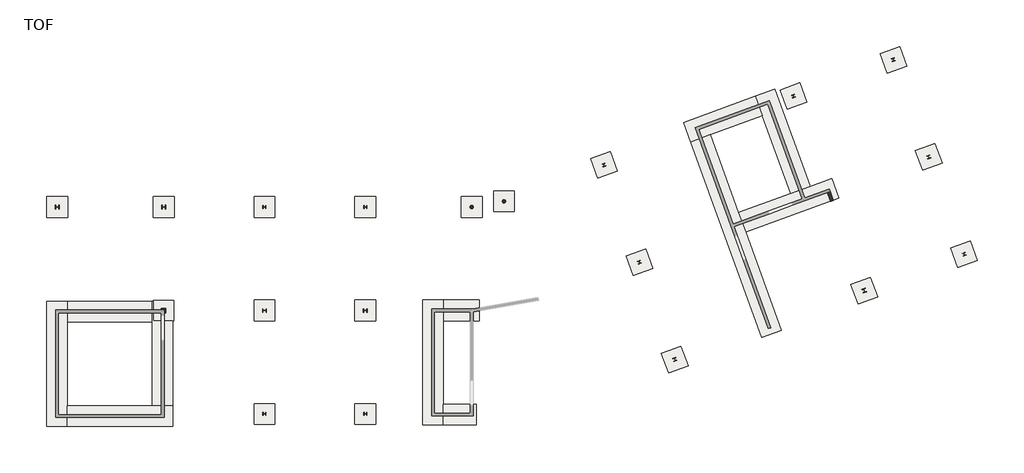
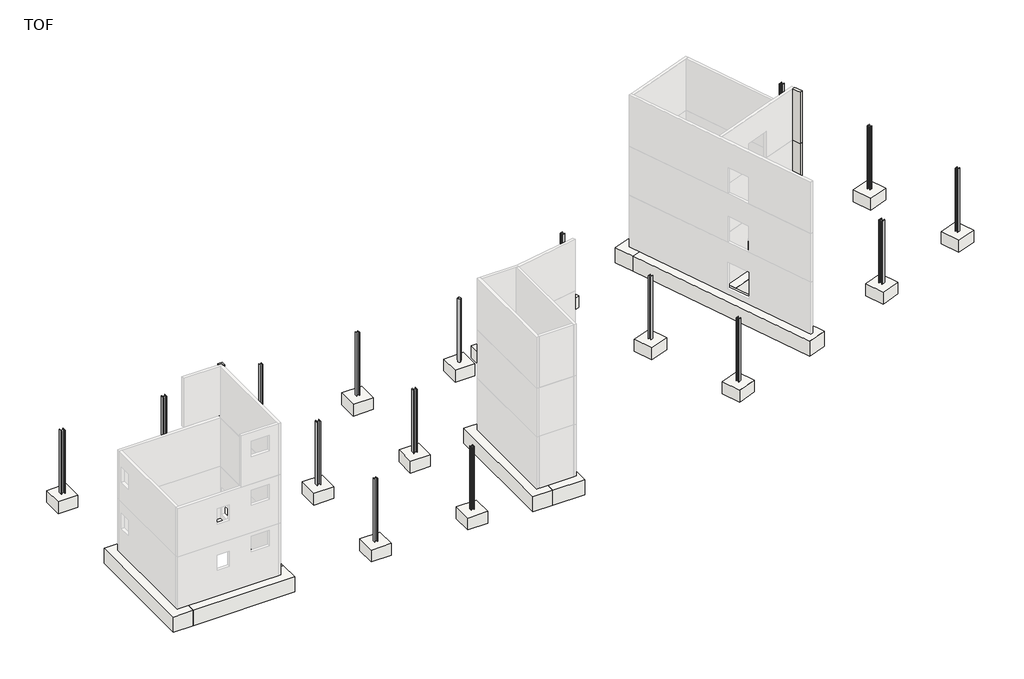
# One storey, part 2 of 2: 19 columns, 19 slabs, 11 footings, 1 wall.
"""IFC4 building model written with IfcOpenShell, lengths in millimetres."""

from ifc_helpers import new_model, si_unit, frame, origin, place, context, project, spatial, polyline, outline, extrude, faceted_brep, transform, mapped, element, save
from components import circular_hollow_sections_column_chs244_5x6_3_66409fe9, uc_universal_columns_column_uc203x203x71_fe7b5fb6, uc_universal_columns_column_uc254x254x132_75153143, footing_rectangular_1500_x_1500_x_950_28d08e25

model = new_model("IFC4")

# Units and contexts
model_context = context("Model", 3, world=origin())
ifc_project = project(units=[si_unit("LENGTHUNIT", "METRE", prefix="MILLI")], contexts=[model_context])

# Site, building, storey
site = spatial("IfcSite", under=ifc_project)
building = spatial("IfcBuilding", under=site)
storey = spatial("IfcBuildingStorey", under=building, Name="TOF", Elevation=-450.0)

# Columns
placement = place(None, origin())
circular_hollow_sections_column_chs244_5x6_3_shape = circular_hollow_sections_column_chs244_5x6_3_66409fe9(model_context)
element("IfcColumn", 1, ObjectType="Circular Hollow Sections-Column : CHS244.5x6.3", at=placement, inside=storey, context=model_context, shape_type="MappedRepresentation", body=[
    mapped(circular_hollow_sections_column_chs244_5x6_3_shape, transform((30362.2000022, 15363.2000005, 0.0), x_axis=(0.0, 1.0, 0.0), y_axis=(-1.0, 0.0, 0.0), z_axis=(0.0, 0.0, 1.0))),
])
element("IfcColumn", 2, ObjectType="Circular Hollow Sections-Column : CHS244.5x6.3", at=placement, inside=storey, context=model_context, shape_type="MappedRepresentation", body=[
    mapped(circular_hollow_sections_column_chs244_5x6_3_shape, transform((32699.714443, 15775.3668642, 0.0), x_axis=(1.0, 0.0, 0.0), y_axis=(0.0, 1.0, 0.0), z_axis=(0.0, 0.0, 1.0))),
])
element("IfcColumn", 3, ObjectType="Concrete-Rectangular-Column : 325 x 325", at=placement, inside=storey, context=model_context, shape_type="SweptSolid", body=[
    extrude(outline(polyline([(7887.2000024, 8013.2000005), (8212.2000024, 8013.2000005), (8212.2000024, 7688.2000005), (8087.2000024, 7688.2000005), (8087.2000024, 7888.2000005), (7887.2000024, 7888.2000005), (7887.2000024, 8013.2000005)])), frame((0.0, 0.0, 7795.0), z_axis=(0.0, 0.0, 1.0), x_axis=(1.0, 0.0, 0.0)), (0.0, 0.0, 1.0), 3905.0),
    extrude(outline(polyline([(8212.2000024, 8013.2000005), (8212.2000024, 7688.2000005), (8087.2000024, 7688.2000005), (8087.2000024, 7888.2000005), (7887.2000024, 7888.2000005), (7887.2000024, 8013.2000005), (8212.2000024, 8013.2000005)])), frame((0.0, 0.0, -450.0), z_axis=(0.0, 0.0, 1.0), x_axis=(1.0, 0.0, 0.0)), (0.0, 0.0, 1.0), 8045.0),
])
uc_universal_columns_column_uc203x203x71_shape = uc_universal_columns_column_uc203x203x71_fe7b5fb6(model_context)
element("IfcColumn", 4, ObjectType="UC-Universal Columns-Column : UC203x203x71", at=placement, inside=storey, context=model_context, shape_type="MappedRepresentation", body=[
    mapped(uc_universal_columns_column_uc203x203x71_shape, transform((22662.2000023, 15363.2000005, 0.0), x_axis=(0.0, 1.0, 0.0), y_axis=(-1.0, 0.0, 0.0), z_axis=(0.0, 0.0, 1.0))),
])
element("IfcColumn", 5, ObjectType="UC-Universal Columns-Column : UC203x203x71", at=placement, inside=storey, context=model_context, shape_type="MappedRepresentation", body=[
    mapped(uc_universal_columns_column_uc203x203x71_shape, transform((15362.2000023, 15363.2000005, 0.0), x_axis=(0.0, 1.0, 0.0), y_axis=(-1.0, 0.0, 0.0), z_axis=(0.0, 0.0, 1.0))),
])
element("IfcColumn", 6, ObjectType="UC-Universal Columns-Column : UC203x203x71", at=placement, inside=storey, context=model_context, shape_type="MappedRepresentation", body=[
    mapped(uc_universal_columns_column_uc203x203x71_shape, transform((15362.2000023, 363.2000005, 0.0), x_axis=(0.0, 1.0, 0.0), y_axis=(-1.0, 0.0, 0.0), z_axis=(0.0, 0.0, 1.0))),
])
element("IfcColumn", 7, ObjectType="UC-Universal Columns-Column : UC203x203x71", at=placement, inside=storey, context=model_context, shape_type="MappedRepresentation", body=[
    mapped(uc_universal_columns_column_uc203x203x71_shape, transform((22662.2000022, 363.2000005, 0.0), x_axis=(0.0, 1.0, 0.0), y_axis=(-1.0, 0.0, 0.0), z_axis=(0.0, 0.0, 1.0))),
])
element("IfcColumn", 8, ObjectType="UC-Universal Columns-Column : UC203x203x71", at=placement, inside=storey, context=model_context, shape_type="MappedRepresentation", body=[
    mapped(uc_universal_columns_column_uc203x203x71_shape, transform((42500.4986978, 11361.2273115, 0.0), x_axis=(0.9396926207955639, 0.3420201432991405, 0.0), y_axis=(-0.3420201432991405, 0.9396926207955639, 0.0), z_axis=(0.0, 0.0, 1.0))),
])
element("IfcColumn", 9, ObjectType="UC-Universal Columns-Column : UC203x203x71", at=placement, inside=storey, context=model_context, shape_type="MappedRepresentation", body=[
    mapped(uc_universal_columns_column_uc203x203x71_shape, transform((39935.3476231, 18408.9219674, 0.0), x_axis=(0.9396926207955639, 0.3420201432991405, 0.0), y_axis=(-0.3420201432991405, 0.9396926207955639, 0.0), z_axis=(0.0, 0.0, 1.0))),
])
element("IfcColumn", 10, ObjectType="UC-Universal Columns-Column : UC203x203x71", at=placement, inside=storey, context=model_context, shape_type="MappedRepresentation", body=[
    mapped(uc_universal_columns_column_uc203x203x71_shape, transform((53654.8598867, 23402.4160596, 0.0), x_axis=(0.9396926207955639, 0.3420201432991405, 0.0), y_axis=(-0.3420201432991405, 0.9396926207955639, 0.0), z_axis=(0.0, 0.0, 1.0))),
])
element("IfcColumn", 11, ObjectType="UC-Universal Columns-Column : UC203x203x71", at=placement, inside=storey, context=model_context, shape_type="MappedRepresentation", body=[
    mapped(uc_universal_columns_column_uc203x203x71_shape, transform((60890.4930669, 26035.971163, 0.0), x_axis=(0.9396926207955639, 0.3420201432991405, 0.0), y_axis=(-0.3420201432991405, 0.9396926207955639, 0.0), z_axis=(0.0, 0.0, 1.0))),
])
element("IfcColumn", 12, ObjectType="UC-Universal Columns-Column : UC203x203x71", at=placement, inside=storey, context=model_context, shape_type="MappedRepresentation", body=[
    mapped(uc_universal_columns_column_uc203x203x71_shape, transform((63455.6441416, 18988.2765071, 0.0), x_axis=(0.9396926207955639, 0.3420201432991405, 0.0), y_axis=(-0.3420201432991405, 0.9396926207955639, 0.0), z_axis=(0.0, 0.0, 1.0))),
])
element("IfcColumn", 13, ObjectType="UC-Universal Columns-Column : UC203x203x71", at=placement, inside=storey, context=model_context, shape_type="MappedRepresentation", body=[
    mapped(uc_universal_columns_column_uc203x203x71_shape, transform((66020.7952164, 11940.5818511, 0.0), x_axis=(0.9396926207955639, 0.3420201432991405, 0.0), y_axis=(-0.3420201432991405, 0.9396926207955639, 0.0), z_axis=(0.0, 0.0, 1.0))),
])
element("IfcColumn", 14, ObjectType="UC-Universal Columns-Column : UC203x203x71", at=placement, inside=storey, context=model_context, shape_type="MappedRepresentation", body=[
    mapped(uc_universal_columns_column_uc203x203x71_shape, transform((45065.6497726, 4313.5326555, 0.0), x_axis=(0.939692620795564, 0.3420201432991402, 0.0), y_axis=(-0.3420201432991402, 0.939692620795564, 0.0), z_axis=(0.0, 0.0, 1.0))),
])
uc_universal_columns_column_uc254x254x132_shape = uc_universal_columns_column_uc254x254x132_75153143(model_context)
element("IfcColumn", 15, ObjectType="UC-Universal Columns-Column : UC254x254x132", at=placement, inside=storey, context=model_context, shape_type="MappedRepresentation", body=[
    mapped(uc_universal_columns_column_uc254x254x132_shape, transform((15362.2000023, 7863.2000004, 0.0), x_axis=(0.0, 1.0, 0.0), y_axis=(-1.0, 0.0, 0.0), z_axis=(0.0, 0.0, 1.0))),
])
element("IfcColumn", 16, ObjectType="UC-Universal Columns-Column : UC254x254x132", at=placement, inside=storey, context=model_context, shape_type="MappedRepresentation", body=[
    mapped(uc_universal_columns_column_uc254x254x132_shape, transform((22662.2000022, 7863.2000004, 0.0), x_axis=(0.0, 1.0, 0.0), y_axis=(-1.0, 0.0, 0.0), z_axis=(0.0, 0.0, 1.0))),
])
element("IfcColumn", 17, ObjectType="UC-Universal Columns-Column : UC254x254x132", at=placement, inside=storey, context=model_context, shape_type="MappedRepresentation", body=[
    mapped(uc_universal_columns_column_uc254x254x132_shape, transform((8062.2000022, 15363.2000005, 0.0), x_axis=(0.0, 1.0, 0.0), y_axis=(-1.0, 0.0, 0.0), z_axis=(0.0, 0.0, 1.0))),
])
element("IfcColumn", 18, ObjectType="UC-Universal Columns-Column : UC254x254x132", at=placement, inside=storey, context=model_context, shape_type="MappedRepresentation", body=[
    mapped(uc_universal_columns_column_uc254x254x132_shape, transform((362.2000023, 15363.2000005, 0.0), x_axis=(0.0, 1.0, 0.0), y_axis=(-1.0, 0.0, 0.0), z_axis=(0.0, 0.0, 1.0))),
])
element("IfcColumn", 19, ObjectType="UC-Universal Columns-Column : UC254x254x132", at=placement, inside=storey, context=model_context, shape_type="MappedRepresentation", body=[
    mapped(uc_universal_columns_column_uc254x254x132_shape, transform((58785.1620362, 9307.0267477, 0.0), x_axis=(0.9396926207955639, 0.3420201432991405, 0.0), y_axis=(-0.3420201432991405, 0.9396926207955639, 0.0), z_axis=(0.0, 0.0, 1.0))),
])

# Footings
element("IfcFooting", 20, ObjectType="Retaining Footing - 300 x 600 x 300", at=placement, inside=storey, context=model_context, shape_type="Brep", body=[
    faceted_brep([(1082.9999999, -536.9999993, -450.0), (1083.0000002, 963.0000007, -450.0), (1083.0000011, 7038.2000003, -450.0), (1083.0000014, 8538.2000003, -450.0), (-416.9999986, 8538.2000003, -450.0), (-417.0000001, -536.9999993, -450.0), (-417.0000001, -536.9999993, -1650.0), (-416.9999986, 8538.2000003, -1650.0), (1082.9999999, -536.9999993, -1650.0), (1083.0000014, 8538.2000003, -1650.0), (1083.0000011, 7038.2000003, -1650.0), (1083.0000002, 963.0000007, -1650.0)], [[[0, 1, 2, 3, 4, 5]], [[6, 5, 4, 7]], [[8, 6, 7, 9, 10, 11]], [[0, 8, 11, 10, 9, 3, 2, 1]], [[0, 5, 6, 8]], [[4, 3, 9, 7]]]),
])
element("IfcFooting", 21, ObjectType="Retaining Footing - 300 x 600 x 300", at=placement, inside=storey, context=model_context, shape_type="Brep", body=[
    faceted_brep([(8737.2000024, -536.9999993, -450.0), (8737.2000024, 963.0000007, -450.0), (7237.2000024, 963.0000007, -450.0), (1083.0000002, 963.0000007, -450.0), (1082.9999999, -536.9999993, -450.0), (8737.2000024, -536.9999993, -1650.0), (1082.9999999, -536.9999993, -1650.0), (8737.2000024, 963.0000007, -1650.0), (1083.0000002, 963.0000007, -1650.0), (7237.2000024, 963.0000007, -1650.0)], [[[0, 1, 2, 3, 4]], [[5, 0, 4, 6]], [[7, 5, 6, 8, 9]], [[1, 7, 9, 8, 3, 2]], [[4, 3, 8, 6]], [[1, 0, 5, 7]]]),
])
element("IfcFooting", 22, ObjectType="Retaining Footing - 300 x 600 x 300", at=placement, inside=storey, context=model_context, shape_type="Brep", body=[
    faceted_brep([(8737.2000024, 7100.7000005, -450.0), (7299.7000024, 7100.7000005, -450.0), (7299.7000024, 8538.2000005, -450.0), (7237.2000024, 8538.2000005, -450.0), (7237.2000024, 7038.2000005, -450.0), (7237.2000024, 963.0000007, -450.0), (8737.2000024, 963.0000007, -450.0), (8737.2000024, 7100.7000005, -1400.0), (8737.2000024, 963.0000007, -1650.0), (8737.2000024, 8538.2000005, -1650.0), (8737.2000024, 8538.2000005, -1400.0), (7237.2000024, 8538.2000005, -1650.0), (7237.2000024, 963.0000007, -1650.0), (7237.2000024, 7038.2000005, -1650.0), (7299.7000024, 7100.7000005, -1400.0), (7299.7000024, 8538.2000005, -1400.0)], [[[0, 1, 2, 3, 4, 5, 6]], [[7, 0, 6, 8, 9, 10]], [[11, 9, 8, 12, 13]], [[3, 11, 13, 12, 5, 4]], [[14, 1, 0, 7]], [[6, 5, 12, 8]], [[9, 11, 3, 2, 15, 10]], [[15, 14, 7, 10]], [[1, 14, 15, 2]]]),
])
element("IfcFooting", 23, ObjectType="Retaining Footing - 300 x 600 x 300", at=placement, inside=storey, context=model_context, shape_type="SweptSolid", body=[
    extrude(outline(polyline([(1083.0000011, 7038.2000003), (1083.0000014, 8538.2000003), (7237.2000024, 8538.2000005), (7237.2000024, 7038.2000005), (1083.0000011, 7038.2000003)])), frame((0.0, 0.0, -1650.0), z_axis=(0.0, 0.0, 1.0), x_axis=(1.0, 0.0, 0.0)), (0.0, 0.0, 1.0), 1200.0),
])
element("IfcFooting", 24, ObjectType="Retaining Footing - 300 x 600 x 300", at=placement, inside=storey, context=model_context, shape_type="Brep", body=[
    faceted_brep([(28312.2000028, -429.9999994, -450.0), (28312.2000028, 1070.0000006, -450.0), (28312.2000028, 7113.2000004, -450.0), (28312.2000028, 8613.2000004, -450.0), (26812.2000028, 8613.2000004, -450.0), (26812.2000028, -429.9999994, -450.0), (26812.2000028, -429.9999994, -1650.0), (26812.2000028, 8613.2000004, -1650.0), (28312.2000028, -429.9999994, -1650.0), (28312.2000028, 8613.2000004, -1650.0), (28312.2000028, 7113.2000004, -1650.0), (28312.2000028, 1070.0000006, -1650.0)], [[[0, 1, 2, 3, 4, 5]], [[6, 5, 4, 7]], [[8, 6, 7, 9, 10, 11]], [[0, 8, 11, 10, 9, 3, 2, 1]], [[4, 3, 9, 7]], [[0, 5, 6, 8]]]),
])
element("IfcFooting", 25, ObjectType="Retaining Footing - 300 x 600 x 300", at=placement, inside=storey, context=model_context, shape_type="SweptSolid", body=[
    extrude(outline(polyline([(30912.2000027, 8613.2000004), (30912.2000027, 7113.2000004), (28312.2000028, 7113.2000004), (28312.2000028, 8613.2000004), (30912.2000027, 8613.2000004)])), frame((0.0, 0.0, -1650.0), z_axis=(0.0, 0.0, 1.0), x_axis=(1.0, 0.0, 0.0)), (0.0, 0.0, 1.0), 1200.0),
])
element("IfcFooting", 26, ObjectType="Retaining Footing - 300 x 600 x 300", at=placement, inside=storey, context=model_context, shape_type="SweptSolid", body=[
    extrude(outline(polyline([(30712.2000024, 1070.0000006), (30712.2000024, -429.9999994), (28312.2000028, -429.9999994), (28312.2000028, 1070.0000006), (30712.2000024, 1070.0000006)])), frame((0.0, 0.0, -1650.0), z_axis=(0.0, 0.0, 1.0), x_axis=(1.0, 0.0, 0.0)), (0.0, 0.0, 1.0), 1200.0),
])
element("IfcFooting", 27, ObjectType="Retaining Footing - 300 x 600 x 300", at=placement, inside=storey, context=model_context, shape_type="Brep", body=[
    faceted_brep([(50904.0078621, 23385.7650789, -450.0), (51417.0380771, 21976.2261477, -450.0), (53468.3722906, 16340.2317159, -450.0), (54877.9112218, 16853.2619309, -450.0), (52313.5467933, 23898.7952939, -450.0), (52313.5467933, 23898.7952939, -1650.0), (54877.9112218, 16853.2619309, -1650.0), (50904.0078621, 23385.7650789, -1650.0), (53468.3722906, 16340.2317159, -1650.0), (51417.0380771, 21976.2261477, -1650.0)], [[[0, 1, 2, 3, 4]], [[5, 4, 3, 6]], [[7, 5, 6, 8, 9]], [[0, 7, 9, 8, 2, 1]], [[0, 4, 5, 7]], [[3, 2, 8, 6]]]),
])
element("IfcFooting", 28, ObjectType="Retaining Footing - 300 x 600 x 300", at=placement, inside=storey, context=model_context, shape_type="Brep", body=[
    faceted_brep([(45703.4203062, 21492.9060081, -450.0), (46216.4505212, 20083.3670769, -450.0), (47625.9894524, 20596.3972918, -450.0), (51417.0380771, 21976.2261477, -450.0), (50904.0078621, 23385.7650789, -450.0), (45703.4203062, 21492.9060081, -1650.0), (50904.0078621, 23385.7650789, -1650.0), (46216.4505212, 20083.3670769, -1650.0), (51417.0380771, 21976.2261477, -1650.0), (47625.9894524, 20596.3972918, -1650.0)], [[[0, 1, 2, 3, 4]], [[5, 0, 4, 6]], [[7, 5, 6, 8, 9]], [[1, 7, 9, 8, 3, 2]], [[4, 3, 8, 6]], [[1, 0, 5, 7]]]),
])
element("IfcFooting", 29, ObjectType="Retaining Footing - 300 x 600 x 300", at=placement, inside=storey, context=model_context, shape_type="Brep", body=[
    faceted_brep([(51377.6712916, 5903.0295521, -450.0), (51377.6712916, 5903.0295521, -1650.0), (52787.2102228, 6416.059767, -1650.0), (52787.2102228, 6416.059767, -450.0), (50190.3538808, 13550.8639288, -450.0), (49677.3236659, 14960.40286, -450.0), (47625.9894524, 20596.3972918, -450.0), (46216.4505212, 20083.3670769, -450.0), (46216.4505212, 20083.3670769, -1650.0), (47625.9894524, 20596.3972918, -1650.0), (49677.3236659, 14960.40286, -1650.0), (50190.3538808, 13550.8639288, -1650.0)], [[[0, 1, 2, 3]], [[0, 3, 4, 5, 6, 7]], [[1, 0, 7, 8]], [[2, 1, 8, 9, 10, 11]], [[3, 2, 11, 10, 9, 6, 5, 4]], [[7, 6, 9, 8]]]),
])
element("IfcFooting", 30, ObjectType="Retaining Footing - 300 x 600 x 300", at=placement, inside=storey, context=model_context, shape_type="Brep", body=[
    faceted_brep([(56956.1407505, 16013.4089605, -450.0), (56956.1407505, 16013.4089605, -1650.0), (56443.1105356, 17422.9478917, -1650.0), (56443.1105356, 17422.9478917, -450.0), (50190.3538808, 13550.8639288, -450.0), (54877.9112218, 16853.2619309, -450.0), (53468.3722906, 16340.2317159, -450.0), (49677.3236659, 14960.40286, -450.0), (50190.3538808, 13550.8639288, -1650.0), (49677.3236659, 14960.40286, -1650.0), (53468.3722906, 16340.2317159, -1650.0), (54877.9112218, 16853.2619309, -1650.0)], [[[0, 1, 2, 3]], [[4, 0, 3, 5, 6, 7]], [[1, 0, 4, 8]], [[2, 1, 8, 9, 10, 11]], [[3, 2, 11, 10, 9, 7, 6, 5]], [[4, 7, 9, 8]]]),
])

# Slabs
element("IfcSlab", 31, ObjectType="Footing-Rectangular : 1500 x 1500 x 950", at=placement, inside=storey, context=model_context, shape_type="Brep", body=[
    faceted_brep([(8799.7000024, 8600.7000005, -450.0), (7299.7000024, 8600.7000005, -450.0), (7299.7000024, 8538.2000005, -450.0), (7299.7000024, 7100.7000005, -450.0), (8737.2000024, 7100.7000005, -450.0), (8799.7000024, 7100.7000005, -450.0), (8799.7000024, 8600.7000005, -1400.0), (8799.7000024, 7100.7000005, -1400.0), (8737.2000024, 7100.7000005, -1400.0), (7299.7000024, 7100.7000005, -1400.0), (7299.7000024, 8538.2000005, -1400.0), (7299.7000024, 8600.7000005, -1400.0)], [[[0, 1, 2, 3, 4, 5]], [[6, 7, 8, 9, 10, 11]], [[1, 0, 6, 11]], [[3, 2, 1, 11, 10, 9]], [[5, 4, 3, 9, 8, 7]], [[0, 5, 7, 6]]]),
])
footing_rectangular_1500_x_1500_x_950_shape = footing_rectangular_1500_x_1500_x_950_28d08e25(model_context)
element("IfcSlab", 32, ObjectType="Footing-Rectangular : 1500 x 1500 x 950", at=placement, inside=storey, context=model_context, shape_type="MappedRepresentation", body=[
    mapped(footing_rectangular_1500_x_1500_x_950_shape, transform((15362.2000023, 7863.2000004, -450.0), x_axis=(0.0, 1.0, 0.0), y_axis=(-1.0, 0.0, 0.0), z_axis=(0.0, 0.0, 1.0))),
])
element("IfcSlab", 33, ObjectType="Footing-Rectangular : 1500 x 1500 x 950", at=placement, inside=storey, context=model_context, shape_type="MappedRepresentation", body=[
    mapped(footing_rectangular_1500_x_1500_x_950_shape, transform((22662.2000022, 7863.2000004, -450.0), x_axis=(0.0, 1.0, 0.0), y_axis=(-1.0, 0.0, 0.0), z_axis=(0.0, 0.0, 1.0))),
])
element("IfcSlab", 34, ObjectType="Footing-Rectangular : 1500 x 1500 x 950", at=placement, inside=storey, context=model_context, shape_type="MappedRepresentation", body=[
    mapped(footing_rectangular_1500_x_1500_x_950_shape, transform((22662.2000023, 15363.2000005, -450.0), x_axis=(0.0, 1.0, 0.0), y_axis=(-1.0, 0.0, 0.0), z_axis=(0.0, 0.0, 1.0))),
])
element("IfcSlab", 35, ObjectType="Footing-Rectangular : 1500 x 1500 x 950", at=placement, inside=storey, context=model_context, shape_type="MappedRepresentation", body=[
    mapped(footing_rectangular_1500_x_1500_x_950_shape, transform((15362.2000023, 15363.2000005, -450.0), x_axis=(0.0, 1.0, 0.0), y_axis=(-1.0, 0.0, 0.0), z_axis=(0.0, 0.0, 1.0))),
])
element("IfcSlab", 36, ObjectType="Footing-Rectangular : 1500 x 1500 x 950", at=placement, inside=storey, context=model_context, shape_type="MappedRepresentation", body=[
    mapped(footing_rectangular_1500_x_1500_x_950_shape, transform((8062.2000022, 15363.2000005, -450.0), x_axis=(0.0, 1.0, 0.0), y_axis=(-1.0, 0.0, 0.0), z_axis=(0.0, 0.0, 1.0))),
])
element("IfcSlab", 37, ObjectType="Footing-Rectangular : 1500 x 1500 x 950", at=placement, inside=storey, context=model_context, shape_type="MappedRepresentation", body=[
    mapped(footing_rectangular_1500_x_1500_x_950_shape, transform((362.2000023, 15363.2000005, -450.0), x_axis=(0.0, 1.0, 0.0), y_axis=(-1.0, 0.0, 0.0), z_axis=(0.0, 0.0, 1.0))),
])
element("IfcSlab", 38, ObjectType="Footing-Rectangular : 1500 x 1500 x 950", at=placement, inside=storey, context=model_context, shape_type="MappedRepresentation", body=[
    mapped(footing_rectangular_1500_x_1500_x_950_shape, transform((15362.2000023, 363.2000005, -450.0), x_axis=(0.0, 1.0, 0.0), y_axis=(-1.0, 0.0, 0.0), z_axis=(0.0, 0.0, 1.0))),
])
element("IfcSlab", 39, ObjectType="Footing-Rectangular : 1500 x 1500 x 950", at=placement, inside=storey, context=model_context, shape_type="MappedRepresentation", body=[
    mapped(footing_rectangular_1500_x_1500_x_950_shape, transform((22662.2000022, 363.2000005, -450.0), x_axis=(0.0, 1.0, 0.0), y_axis=(-1.0, 0.0, 0.0), z_axis=(0.0, 0.0, 1.0))),
])
element("IfcSlab", 40, ObjectType="Footing-Rectangular : 1500 x 1500 x 950", at=placement, inside=storey, context=model_context, shape_type="MappedRepresentation", body=[
    mapped(footing_rectangular_1500_x_1500_x_950_shape, transform((42500.4986978, 11361.2273115, -450.0), x_axis=(0.9396926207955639, 0.3420201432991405, 0.0), y_axis=(-0.3420201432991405, 0.9396926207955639, 0.0), z_axis=(0.0, 0.0, 1.0))),
])
element("IfcSlab", 41, ObjectType="Footing-Rectangular : 1500 x 1500 x 950", at=placement, inside=storey, context=model_context, shape_type="MappedRepresentation", body=[
    mapped(footing_rectangular_1500_x_1500_x_950_shape, transform((39935.3476231, 18408.9219674, -450.0), x_axis=(0.9396926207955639, 0.3420201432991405, 0.0), y_axis=(-0.3420201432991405, 0.9396926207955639, 0.0), z_axis=(0.0, 0.0, 1.0))),
])
element("IfcSlab", 42, ObjectType="Footing-Rectangular : 1500 x 1500 x 950", at=placement, inside=storey, context=model_context, shape_type="MappedRepresentation", body=[
    mapped(footing_rectangular_1500_x_1500_x_950_shape, transform((53654.8598867, 23402.4160596, -450.0), x_axis=(0.9396926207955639, 0.3420201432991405, 0.0), y_axis=(-0.3420201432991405, 0.9396926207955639, 0.0), z_axis=(0.0, 0.0, 1.0))),
])
element("IfcSlab", 43, ObjectType="Footing-Rectangular : 1500 x 1500 x 950", at=placement, inside=storey, context=model_context, shape_type="MappedRepresentation", body=[
    mapped(footing_rectangular_1500_x_1500_x_950_shape, transform((60890.4930669, 26035.971163, -450.0), x_axis=(0.9396926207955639, 0.3420201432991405, 0.0), y_axis=(-0.3420201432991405, 0.9396926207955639, 0.0), z_axis=(0.0, 0.0, 1.0))),
])
element("IfcSlab", 44, ObjectType="Footing-Rectangular : 1500 x 1500 x 950", at=placement, inside=storey, context=model_context, shape_type="MappedRepresentation", body=[
    mapped(footing_rectangular_1500_x_1500_x_950_shape, transform((63455.6441416, 18988.2765071, -450.0), x_axis=(0.9396926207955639, 0.3420201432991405, 0.0), y_axis=(-0.3420201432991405, 0.9396926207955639, 0.0), z_axis=(0.0, 0.0, 1.0))),
])
element("IfcSlab", 45, ObjectType="Footing-Rectangular : 1500 x 1500 x 950", at=placement, inside=storey, context=model_context, shape_type="MappedRepresentation", body=[
    mapped(footing_rectangular_1500_x_1500_x_950_shape, transform((66020.7952164, 11940.5818511, -450.0), x_axis=(0.9396926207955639, 0.3420201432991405, 0.0), y_axis=(-0.3420201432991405, 0.9396926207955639, 0.0), z_axis=(0.0, 0.0, 1.0))),
])
element("IfcSlab", 46, ObjectType="Footing-Rectangular : 1500 x 1500 x 950", at=placement, inside=storey, context=model_context, shape_type="MappedRepresentation", body=[
    mapped(footing_rectangular_1500_x_1500_x_950_shape, transform((58785.1620362, 9307.0267477, -450.0), x_axis=(0.9396926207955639, 0.3420201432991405, 0.0), y_axis=(-0.3420201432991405, 0.9396926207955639, 0.0), z_axis=(0.0, 0.0, 1.0))),
])
element("IfcSlab", 47, ObjectType="Footing-Rectangular : 1500 x 1500 x 950", at=placement, inside=storey, context=model_context, shape_type="MappedRepresentation", body=[
    mapped(footing_rectangular_1500_x_1500_x_950_shape, transform((45065.6497726, 4313.5326555, -450.0), x_axis=(0.939692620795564, 0.3420201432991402, 0.0), y_axis=(-0.3420201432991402, 0.939692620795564, 0.0), z_axis=(0.0, 0.0, 1.0))),
])
element("IfcSlab", 48, ObjectType="Footing-Rectangular : 1500 x 1500 x 950", at=placement, inside=storey, context=model_context, shape_type="MappedRepresentation", body=[
    mapped(footing_rectangular_1500_x_1500_x_950_shape, transform((30362.2000022, 15363.2000005, -450.0), x_axis=(0.0, 1.0, 0.0), y_axis=(-1.0, 0.0, 0.0), z_axis=(0.0, 0.0, 1.0))),
])
element("IfcSlab", 49, ObjectType="Footing-Rectangular : 1500 x 1500 x 950", at=placement, inside=storey, context=model_context, shape_type="MappedRepresentation", body=[
    mapped(footing_rectangular_1500_x_1500_x_950_shape, transform((32699.714443, 15775.3668642, -450.0), x_axis=(1.0, 0.0, 0.0), y_axis=(0.0, 1.0, 0.0), z_axis=(0.0, 0.0, 1.0))),
])

# Wall
element("IfcWall", 50, ObjectType="RC WALL 200", at=placement, inside=storey, context=model_context, shape_type="SweptSolid", body=[
    extrude(outline(polyline([(56352.1809499, 15772.302015), (56123.0274539, 16401.8960709), (56310.965978, 16470.3000996), (56540.1194741, 15840.7060436), (56352.1809499, 15772.302015)])), frame((0.0, 0.0, 7595.0), z_axis=(0.0, 0.0, 1.0), x_axis=(1.0, 0.0, 0.0)), (0.0, 0.0, 1.0), 4105.0),
    extrude(outline(polyline([(56352.1809499, 15772.302015), (56123.0274539, 16401.8960709), (56310.965978, 16470.3000996), (56540.1194741, 15840.7060436), (56352.1809499, 15772.302015)])), frame((0.0, 0.0, -450.0), z_axis=(0.0, 0.0, 1.0), x_axis=(1.0, 0.0, 0.0)), (0.0, 0.0, 1.0), 4145.0),
    extrude(outline(polyline([(56352.1809499, 15772.302015), (56123.0274539, 16401.8960709), (56310.965978, 16470.3000996), (56540.1194741, 15840.7060436), (56352.1809499, 15772.302015)])), frame((0.0, 0.0, 3695.0), z_axis=(0.0, 0.0, 1.0), x_axis=(1.0, 0.0, 0.0)), (0.0, 0.0, 1.0), 3900.0),
])

save(model, "model.ifc")
